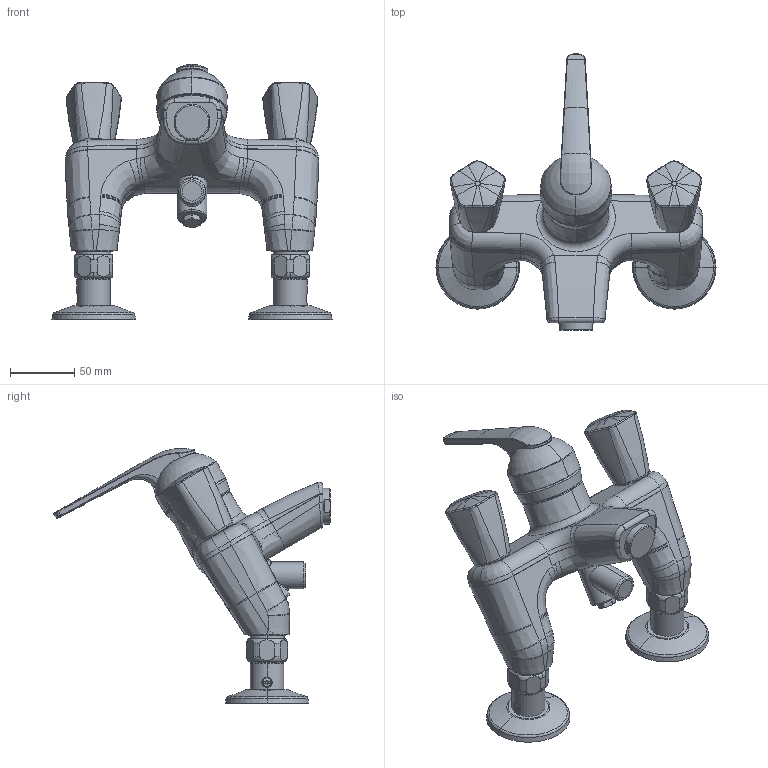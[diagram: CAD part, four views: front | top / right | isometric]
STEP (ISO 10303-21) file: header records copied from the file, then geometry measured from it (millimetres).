
FILE_DESCRIPTION((''),'2;1');
FILE_NAME('508554_SW0001','2020-06-29T13:13:13',('LF994'),(''),'CREO PARAMETRIC BY PTC INC, 2018500','CREO PARAMETRIC BY PTC INC, 2018500','');
FILE_SCHEMA(('CONFIG_CONTROL_DESIGN'));
Length unit declared in the file: millimetre
Products named in the file (1): 508554_SW0001
Bounding box: 218 x 215.09 x 198.63 mm (x, y, z)
Volume: 426059.1 mm3; surface area: 221989.9 mm2
Topology: 6 solids, 8 shells, 2564 faces, 6161 edges, 3674 vertices
Faces by surface type: bspline 724, cylinder 684, plane 579, torus 304, cone 188, sphere 83, revolution 2
Entity records: 123991 total; most frequent: CARTESIAN_POINT 70228, ORIENTED_EDGE 12294, DIRECTION 9831, EDGE_CURVE 6147, AXIS2_PLACEMENT_3D 4117, VERTEX_POINT 3674, EDGE_LOOP 2659, FACE_OUTER_BOUND 2564
